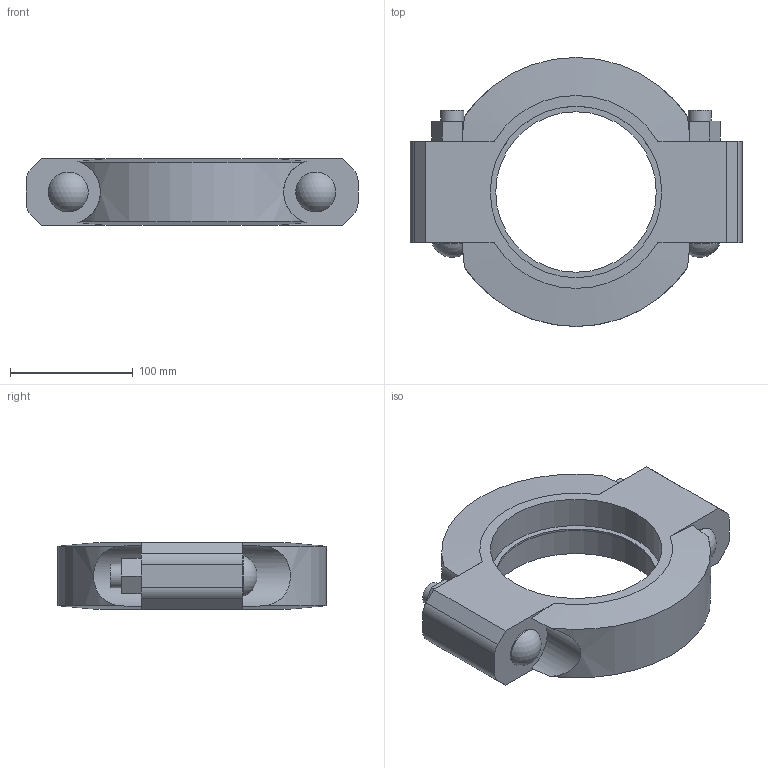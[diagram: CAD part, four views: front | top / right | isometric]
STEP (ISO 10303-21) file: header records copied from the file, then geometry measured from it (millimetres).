
FILE_DESCRIPTION(/* description */ ('Victaulic Standard Flexible Coupling Style 77','CAx-IF Rec.Pracs.---Representation and Presentation of Product Manufacturing Information (PMI)---4.0---2014-10-13'),/* implementation_level */ '2;1');
FILE_NAME(/* name */ 'C:\Users\Vjadhav\Desktop\CAD for Inventor\1\Coupling bolt thickness\77\Victaulic_IPS_Coupling Flexible_Style 77 (OGS)\Victaulic_IPS_Coupling Flexible_Style 77 (OGS)_05.0 (139.7) (125).stp',/* time_stamp */ '2022-03-24T18:20:21+06:00',/* author */ ('CONSTRUCTION PIPING SERVICES'),/* organization */ ('Victaulic'),/* preprocessor_version */ 'ST-DEVELOPER v17.2',/* originating_system */ 'Autodesk Inventor 2019',/* authorisation */ '');
FILE_SCHEMA (('AP242_MANAGED_MODEL_BASED_3D_ENGINEERING_MIM_LF { 1 0 10303 442 1 1 4 }'));
Length unit declared in the file: inch
Products named in the file (1): 077-05.0 (139.7)
Bounding box: 270.51 x 219.2 x 54.1 mm (x, y, z)
Volume: 1354883.6 mm3; surface area: 129412 mm2
Topology: 1 solids, 1 shells, 53 faces, 130 edges, 87 vertices
Faces by surface type: plane 30, cylinder 17, cone 4, sphere 2
Full cylindrical faces by diameter (mm): 19.05 x2, 32.537 x2, 130.81 x1, 139.7 x2
Entity records: 1898 total; most frequent: CARTESIAN_POINT 460, DIRECTION 279, ORIENTED_EDGE 260, EDGE_CURVE 130, AXIS2_PLACEMENT_3D 102, VERTEX_POINT 87, LINE 75, VECTOR 75
